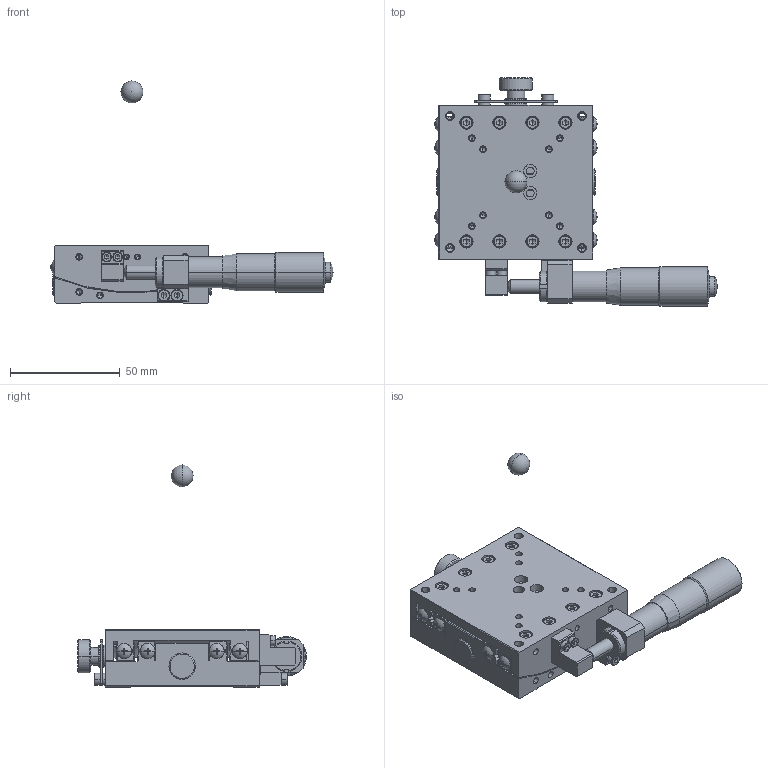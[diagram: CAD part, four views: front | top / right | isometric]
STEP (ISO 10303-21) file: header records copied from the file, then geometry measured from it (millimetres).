
FILE_DESCRIPTION (( 'STEP AP214' ), '1' );
FILE_NAME ('ST07A-S1T.STEP', '2007-01-19T01:32:42', ( ' ' ), ( ' ' ), 'SwSTEP 2.0', 'SolidWorks 2006052', '' );
FILE_SCHEMA (( 'AUTOMOTIVE_DESIGN' ));
Length unit declared in the file: millimetre
Products named in the file (5): MICROMETERHEAD(MHN4-25T)spindle; 002590-1020(3D); 002590-1011(3D); ST07A-S1T; ST07A-S1T-Part-1
Assembly tree (4 placements, depth 2):
  ST07A-S1T
    002590-1020(3D)
    MICROMETERHEAD(MHN4-25T)spindle
    002590-1011(3D)
    ST07A-S1T-Part-1
Bounding box: 128.39 x 104 x 101 mm (x, y, z)
Volume: 127511.8 mm3; surface area: 60916.6 mm2
Topology: 4 solids, 34 shells, 1788 faces, 4176 edges, 2430 vertices
Faces by surface type: plane 721, cylinder 596, cone 441, sphere 22, torus 8
Entity records: 53631 total; most frequent: CARTESIAN_POINT 12883, DIRECTION 8875, ORIENTED_EDGE 8098, EDGE_CURVE 4049, AXIS2_PLACEMENT_3D 3421, VERTEX_POINT 2427, VECTOR 2033, LINE 2033
